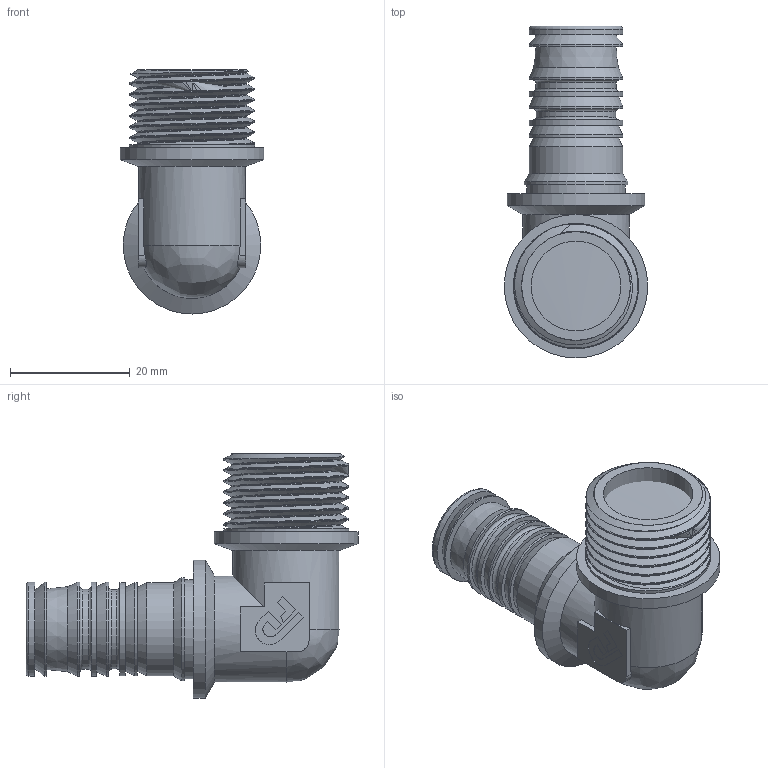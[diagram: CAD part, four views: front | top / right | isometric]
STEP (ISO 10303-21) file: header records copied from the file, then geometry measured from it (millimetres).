
FILE_DESCRIPTION(/* description */ (''),/* implementation_level */ '2;1');
FILE_NAME(/* name */ 'C:\Users\Doom\Desktop\Фадотех\Пресс\HDU23-1 31.03.2020\HDU23-1 31.03.2020.stp',/* time_stamp */ '2022-08-13T15:47:45+03:00',/* author */ ('Doom'),/* organization */ (''),/* preprocessor_version */ 'ST-DEVELOPER v18',/* originating_system */ 'Autodesk Inventor 2020',/* authorisation */ '');
FILE_SCHEMA (('AUTOMOTIVE_DESIGN { 1 0 10303 214 3 1 1 }'));
Length unit declared in the file: millimetre
Products named in the file (1): HDU23-1 31.03.2020
Bounding box: 24 x 55.5 x 40.8 mm (x, y, z)
Volume: 8453.3 mm3; surface area: 10397.2 mm2
Topology: 2 solids, 2 shells, 127 faces, 358 edges, 250 vertices
Faces by surface type: plane 61, cylinder 31, bspline 16, cone 14, torus 5
Full cylindrical faces by diameter (mm): 11.5 x1, 13.292 x1, 13.392 x1, 15 x1, 15.592 x3, 15.692 x5, 16.492 x1, 17.292 x1, 17.8 x2, 18.21 x2, 20.9 x7, 23 x1, 24 x1
Entity records: 8291 total; most frequent: CARTESIAN_POINT 4981, ORIENTED_EDGE 716, DIRECTION 635, EDGE_CURVE 358, VERTEX_POINT 250, AXIS2_PLACEMENT_3D 234, LINE 167, VECTOR 167
